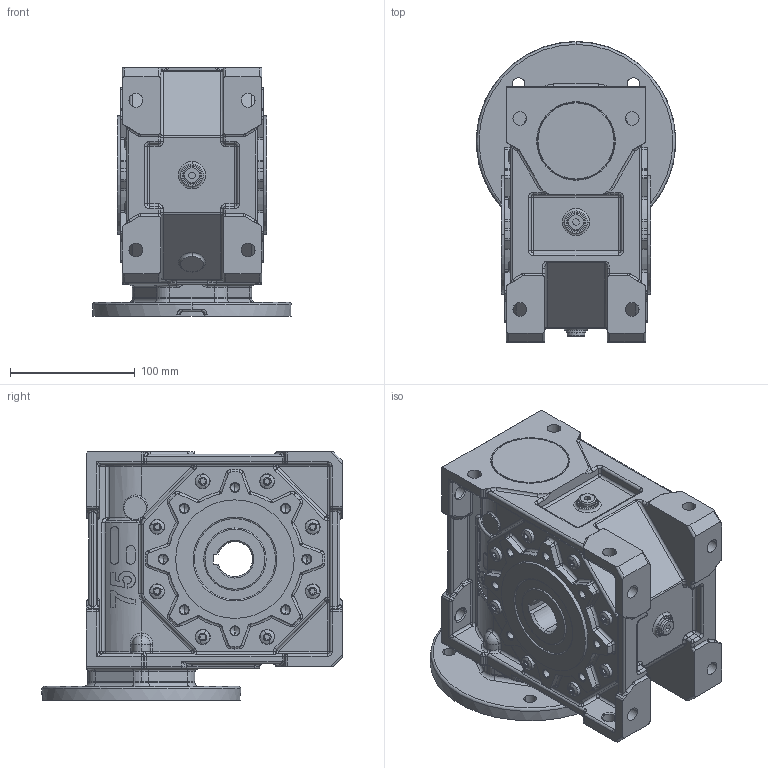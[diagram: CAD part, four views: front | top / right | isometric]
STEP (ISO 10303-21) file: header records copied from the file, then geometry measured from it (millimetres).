
FILE_DESCRIPTION (( 'STEP AP214' ), '1' );
FILE_NAME ('MKT75-FTRL-100-130.STEP', '2006-05-10T07:03:43', ( '' ), ( '' ), 'SwSTEP 2.0', 'SolidWorks 2004146', '' );
FILE_SCHEMA (( 'AUTOMOTIVE_DESIGN' ));
Length unit declared in the file: millimetre
Products named in the file (4): MKT75-FTRL-100-130; Skrin MKT75_MKT 75 AP100; D6912_Šroub DIN 6912 - M6x25; pøíruba130 d72 MRT80a_Výchozí
Assembly tree (8 placements, depth 2):
  MKT75-FTRL-100-130
    pøíruba130 d72 MRT80a_Výchozí
    D6912_Šroub DIN 6912 - M6x25  x6
    Skrin MKT75_MKT 75 AP100
Bounding box: 159.44 x 240.81 x 199 mm (x, y, z)
Volume: 3261025.9 mm3; surface area: 290106.7 mm2
Topology: 8 solids, 8 shells, 2319 faces, 5514 edges, 3146 vertices
Faces by surface type: cylinder 868, torus 461, plane 441, bspline 197, cone 191, sphere 161
Entity records: 167972 total; most frequent: CARTESIAN_POINT 115059, DIRECTION 11146, ORIENTED_EDGE 9988, EDGE_CURVE 4994, AXIS2_PLACEMENT_3D 4700, VERTEX_POINT 2961, CIRCLE 2752, EDGE_LOOP 2281
